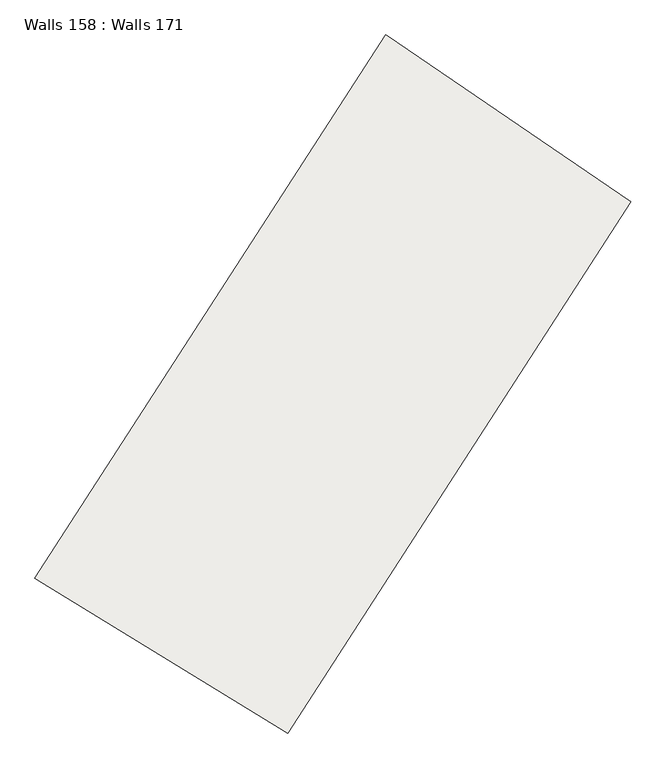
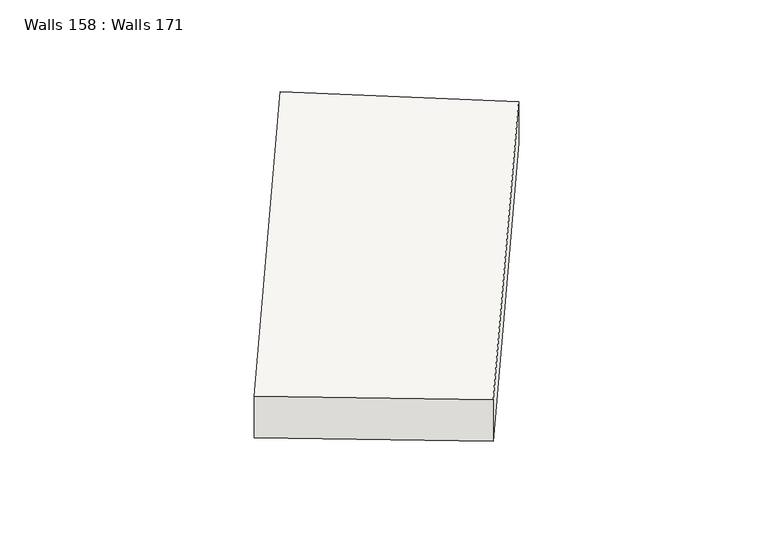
"""IFC4 building model written with IfcOpenShell, lengths in millimetres: slab geometry, Walls 158 : Walls 171."""

from ifc_helpers import new_model, si_unit, frame, origin, place, context, project, spatial, source, transform, mapped, element, save
from ifc_brep_helpers import plane_surface, spline_curve, spline_surface, advanced_brep


def walls_158_walls_171_849a6528(model_context):
    return source(origin(), model_context, "Body", "AdvancedBrep", [
        advanced_brep(
        [(211104.9216579, 111526.2602661, 641850.0), (214516.6442449, 109438.1632882, 641850.0), (214516.6442449, 109438.1632882, 642700.0), (211104.9216579, 111526.2602661, 642700.0), (215845.0322066, 118866.6132507, 641960.0), (215845.0322066, 118866.6132507, 642810.0), (219151.8850913, 116616.1190829, 642810.0), (219151.8850913, 116616.1190829, 641960.0)],
        [
            (0, 1),
            (1, 2),
            (2, 3),
            (3, 0),
            (4, 5),
            (5, 6),
            (6, 7),
            (7, 4),
            (5, 3, spline_curve(3, [(215845.0322066, 118866.6132507, 642810.0), (214206.172342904, 116458.489495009, 642773.333333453), (212625.520278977, 114010.752469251, 642736.666666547), (211104.9216579, 111526.2602661, 642700.0)], [4, 4], [0.0, 28.35497250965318])),
            (2, 6, spline_curve(3, [(214516.6442449, 109438.1632882, 642700.0), (216003.601303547, 111867.688849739, 642736.666666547), (217549.283189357, 114261.272400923, 642773.333333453), (219151.8850913, 116616.1190829, 642810.0)], [4, 4], [0.0, 28.35497250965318])),
            (7, 1, spline_curve(3, [(219151.8850913, 116616.1190829, 641960.0), (217549.283189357, 114261.272400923, 641923.333333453), (216003.601303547, 111867.688849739, 641886.666666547), (214516.6442449, 109438.1632882, 641850.0)], [4, 4], [0.0, 28.354972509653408])),
            (0, 4, spline_curve(3, [(211104.9216579, 111526.2602661, 641850.0), (212625.520278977, 114010.752469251, 641886.666666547), (214206.172342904, 116458.489495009, 641923.333333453), (215845.0322066, 118866.6132507, 641960.0)], [4, 4], [0.0, 28.354972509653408])),
        ],
        [
            plane_surface(frame((212810.7829514, 110482.2117771, 642275.0), z_axis=(-0.5220242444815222, -0.8529306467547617, 0.0), x_axis=(0.0, 0.0, 1.0))),
            plane_surface(frame((217498.458649, 117741.3661668, 642385.0), z_axis=(0.5626235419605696, 0.8267132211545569, 0.0), x_axis=(0.8267132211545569, -0.5626235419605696, 0.0))),
            spline_surface(3, 3, [[(219151.8850913, 116616.1190829, 642810.0), (217549.283189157, 114261.272401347, 642773.333333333), (216003.60130371, 111867.688850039, 642736.666666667), (214516.6442449, 109438.1632882, 642700.0)], [(218049.600796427, 117366.283805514, 642810.0), (216434.912907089, 114993.678099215, 642773.333333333), (214877.574295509, 112582.043389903, 642736.666666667), (213379.40338256, 110134.195614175, 642700.0)], [(216947.316501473, 118116.448528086, 642810.0), (215320.54262494, 115726.08379704, 642773.333333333), (213751.547287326, 113296.397929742, 642736.666666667), (212242.16252024, 110830.227940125, 642700.0)], [(215845.0322066, 118866.6132507, 642810.0), (214206.172342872, 116458.489494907, 642773.333333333), (212625.520279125, 114010.752469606, 642736.666666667), (211104.9216579, 111526.2602661, 642700.0)]], [4, 4], [4, 4], [0.0, 13.123359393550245], [0.0, 28.35497250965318]),
            spline_surface(3, 3, [[(215845.0322066, 118866.6132507, 641960.0), (214206.172342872, 116458.489494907, 641923.333333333), (212625.520279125, 114010.752469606, 641886.666666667), (211104.9216579, 111526.2602661, 641850.0)], [(216947.316501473, 118116.448528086, 641960.0), (215320.54262494, 115726.08379704, 641923.333333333), (213751.547287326, 113296.397929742, 641886.666666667), (212242.16252024, 110830.227940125, 641850.0)], [(218049.600796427, 117366.283805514, 641960.0), (216434.912907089, 114993.678099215, 641923.333333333), (214877.574295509, 112582.043389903, 641886.666666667), (213379.40338256, 110134.195614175, 641850.0)], [(219151.8850913, 116616.1190829, 641960.0), (217549.283189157, 114261.272401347, 641923.333333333), (216003.60130371, 111867.688850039, 641886.666666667), (214516.6442449, 109438.1632882, 641850.0)]], [4, 4], [4, 4], [0.0, 13.123359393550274], [0.0, 28.354972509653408]),
            spline_surface(3, 3, [[(215845.0322066, 118866.6132507, 642810.0), (214206.172342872, 116458.489494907, 642773.333333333), (212625.520279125, 114010.752469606, 642736.666666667), (211104.9216579, 111526.2602661, 642700.0)], [(215845.0322066, 118866.6132507, 642526.666666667), (214206.172342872, 116458.489494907, 642490.0), (212625.520279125, 114010.752469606, 642453.333333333), (211104.9216579, 111526.2602661, 642416.666666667)], [(215845.0322066, 118866.6132507, 642243.333333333), (214206.172342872, 116458.489494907, 642206.666666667), (212625.520279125, 114010.752469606, 642170.0), (211104.9216579, 111526.2602661, 642133.333333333)], [(215845.0322066, 118866.6132507, 641960.0), (214206.172342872, 116458.489494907, 641923.333333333), (212625.520279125, 114010.752469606, 641886.666666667), (211104.9216579, 111526.2602661, 641850.0)]], [4, 4], [4, 4], [0.0, 2.7887139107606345], [0.0, 28.67209112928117]),
            spline_surface(3, 3, [[(219151.8850913, 116616.1190829, 641960.0), (217549.283189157, 114261.272401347, 641923.333333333), (216003.60130371, 111867.688850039, 641886.666666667), (214516.6442449, 109438.1632882, 641850.0)], [(219151.8850913, 116616.1190829, 642243.333333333), (217549.283189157, 114261.272401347, 642206.666666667), (216003.60130371, 111867.688850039, 642170.0), (214516.6442449, 109438.1632882, 642133.333333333)], [(219151.8850913, 116616.1190829, 642526.666666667), (217549.283189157, 114261.272401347, 642490.0), (216003.60130371, 111867.688850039, 642453.333333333), (214516.6442449, 109438.1632882, 642416.666666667)], [(219151.8850913, 116616.1190829, 642810.0), (217549.283189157, 114261.272401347, 642773.333333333), (216003.60130371, 111867.688850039, 642736.666666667), (214516.6442449, 109438.1632882, 642700.0)]], [4, 4], [4, 4], [0.0, 2.7887139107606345], [0.0, 28.03785446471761]),
        ],
        [
            (0, [[1, 2, 3, 4]]),
            (1, [[5, 6, 7, 8]]),
            (2, [[-6, 9, -3, 10]]),
            (3, [[-8, 11, -1, 12]]),
            (4, [[-5, -12, -4, -9]]),
            (5, [[-7, -10, -2, -11]]),
        ],
    ),
    ])


if __name__ == "__main__":
    model = new_model("IFC4")
    model_context = context("Model", 3, world=origin())
    ifc_project = project(units=[si_unit("LENGTHUNIT", "METRE", prefix="MILLI")], contexts=[model_context])
    site = spatial("IfcSite", under=ifc_project)
    building = spatial("IfcBuilding", under=site)
    placement = place(None, origin())
    walls_158_walls_171_shape = walls_158_walls_171_849a6528(model_context)
    element("IfcSlab", 1, ObjectType="Walls 158 : Walls 171", at=placement, inside=building, context=model_context, shape_type="MappedRepresentation", body=[
        mapped(walls_158_walls_171_shape, transform((0.0, 0.0, 0.0), x_axis=(1.0, 0.0, 0.0), y_axis=(0.0, 1.0, 0.0), z_axis=(0.0, 0.0, 1.0))),
    ])
    save(model, "model.ifc")
